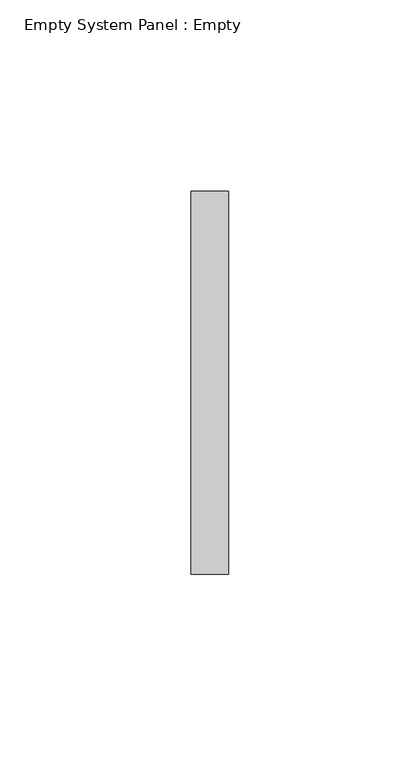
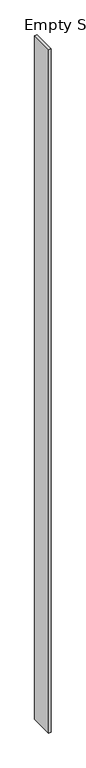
"""IFC4 building model written with IfcOpenShell, lengths in millimetres: plate geometry, Empty System Panel : Empty."""

from ifc_helpers import new_model, si_unit, origin, origin_with_axes, place, context, project, spatial, polyline, outline, extrude, source, transform, mapped, element, save


def empty_system_panel_empty_b0bff820(model_context):
    return source(origin(), model_context, "Body", "SweptSolid", [
        extrude(outline(polyline([(4.8474567, -50.0), (-4.8474567, -50.0), (-4.8474567, 50.0), (4.8474567, 50.0), (4.8474567, -50.0)])), origin_with_axes(), (0.0, 0.0, 1.0), 3000.0),
    ])


if __name__ == "__main__":
    model = new_model("IFC4")
    model_context = context("Model", 3, world=origin())
    ifc_project = project(units=[si_unit("LENGTHUNIT", "METRE", prefix="MILLI")], contexts=[model_context])
    site = spatial("IfcSite", under=ifc_project)
    building = spatial("IfcBuilding", under=site)
    placement = place(None, origin())
    empty_system_panel_empty_shape = empty_system_panel_empty_b0bff820(model_context)
    element("IfcPlate", 1, ObjectType="Empty System Panel : Empty", at=placement, inside=building, context=model_context, shape_type="MappedRepresentation", body=[
        mapped(empty_system_panel_empty_shape, transform((0.0, 0.0, 0.0), x_axis=(1.0, 0.0, 0.0), y_axis=(0.0, 1.0, 0.0), z_axis=(0.0, 0.0, 1.0))),
    ])
    save(model, "model.ifc")
